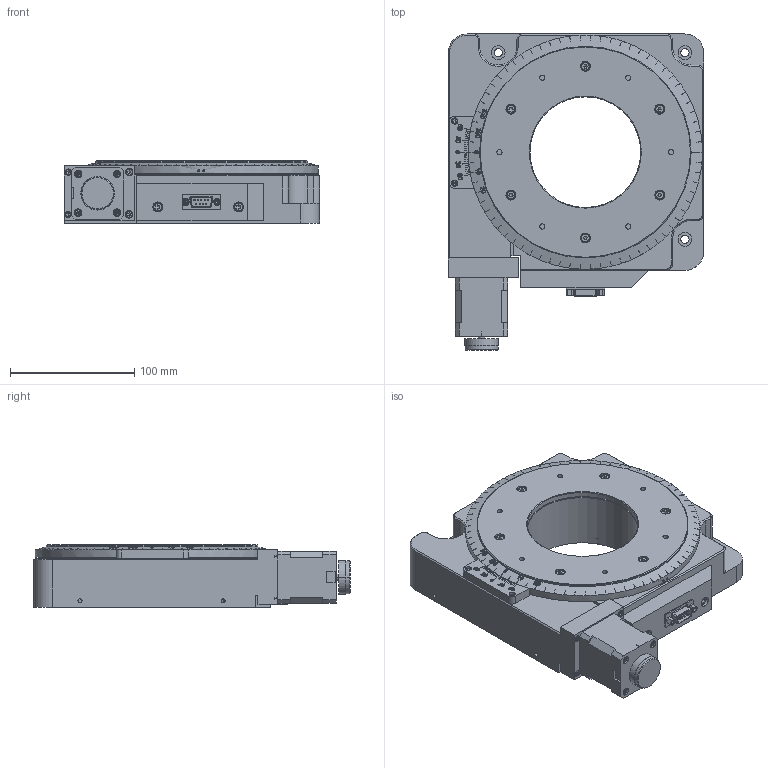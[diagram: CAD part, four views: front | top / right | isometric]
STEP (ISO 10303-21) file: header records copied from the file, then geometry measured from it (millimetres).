
FILE_DESCRIPTION (( 'STEP AP203' ), '1' );
FILE_NAME ('8MR190-90-4247.STEP', '2010-01-11T12:57:19', ( 'Darius' ), ( '' ), 'SwSTEP 2.0', 'SolidWorks 2003240', '' );
FILE_SCHEMA (( 'CONFIG_CONTROL_DESIGN' ));
Products named in the file (1): 8MR190-90-4247
Bounding box: 205 x 254 x 50 mm (x, y, z)
Volume: 1539576.8 mm3; surface area: 197862.2 mm2
Topology: 21 solids, 44 shells, 2130 faces, 5087 edges, 3159 vertices
Faces by surface type: plane 1008, cylinder 474, bspline 389, cone 259
Entity records: 74063 total; most frequent: CARTESIAN_POINT 28080, ORIENTED_EDGE 9998, DIRECTION 8453, EDGE_CURVE 4999, AXIS2_PLACEMENT_3D 3165, VERTEX_POINT 3159, EDGE_LOOP 2420, ADVANCED_FACE 2130
